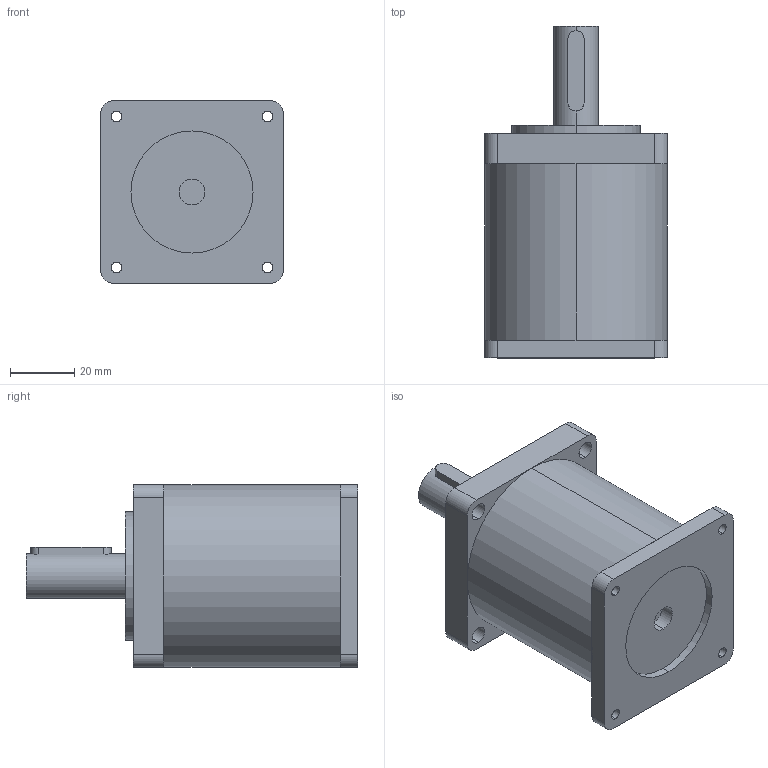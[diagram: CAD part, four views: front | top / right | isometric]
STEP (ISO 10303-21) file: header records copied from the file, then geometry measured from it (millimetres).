
FILE_DESCRIPTION (( 'STEP AP214' ), '1' );
FILE_NAME ('57PLF熬厒儂邧撰.STEP', '2021-02-22T08:21:27', ( 'wimxt.com' ), ( 'wimxt.com' ), 'SwSTEP 2.0', 'SolidWorks 2014', '' );
FILE_SCHEMA (( 'AUTOMOTIVE_DESIGN' ));
Length unit declared in the file: millimetre
Products named in the file (1): 57PLF熬厒儂邧撰
Bounding box: 57 x 103.5 x 57 mm (x, y, z)
Volume: 192777.5 mm3; surface area: 23971.1 mm2
Topology: 1 solids, 1 shells, 65 faces, 163 edges, 103 vertices
Faces by surface type: cylinder 38, plane 25, cone 2
Entity records: 2073 total; most frequent: CARTESIAN_POINT 396, DIRECTION 367, ORIENTED_EDGE 322, EDGE_CURVE 161, AXIS2_PLACEMENT_3D 144, VERTEX_POINT 103, EDGE_LOOP 86, VECTOR 79
